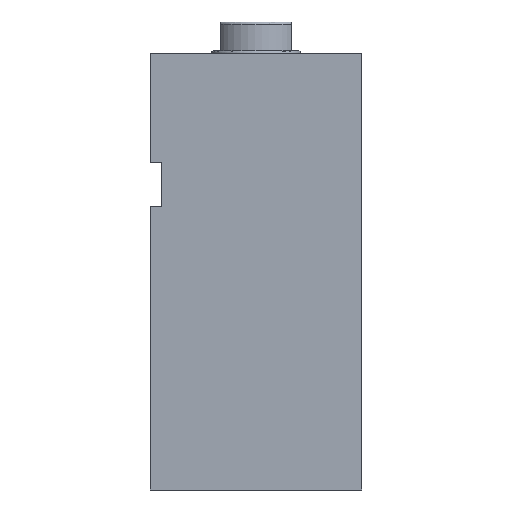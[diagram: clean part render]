
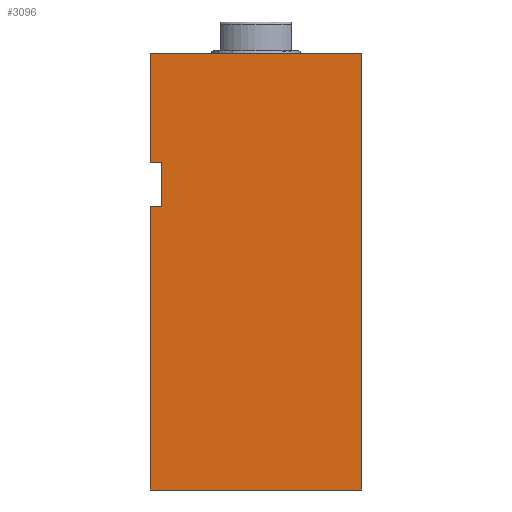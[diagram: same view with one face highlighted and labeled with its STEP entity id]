
A CAD part, front view. The second image highlights one B-rep face of the part: STEP entity #3096.
In plain terms, the highlighted planar face has unit normal (0, -1, 0).
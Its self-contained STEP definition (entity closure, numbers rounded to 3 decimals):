
#69 = CARTESIAN_POINT ( 'NONE',  ( 196., -62.5, 47.5 ) ) ;
#178 = VERTEX_POINT ( 'NONE', #686 ) ;
#185 = B_SPLINE_CURVE_WITH_KNOTS ( 'NONE', 1,
 ( #2417, #2891 ),
 .UNSPECIFIED., .F., .F.,
 ( 2, 2 ),
 ( 0., 0.648 ),
 .UNSPECIFIED. ) ;
#219 = CARTESIAN_POINT ( 'NONE',  ( 0., -62.5, -47.5 ) ) ;
#278 = CARTESIAN_POINT ( 'NONE',  ( 49., -62.5, -47.5 ) ) ;
#283 = LINE ( 'NONE', #4725, #1166 ) ;
#386 = CARTESIAN_POINT ( 'NONE',  ( 49., -62.5, -47.5 ) ) ;
#469 = B_SPLINE_CURVE_WITH_KNOTS ( 'NONE', 1,
 ( #3114, #3995 ),
 .UNSPECIFIED., .F., .F.,
 ( 2, 2 ),
 ( 0., 1. ),
 .UNSPECIFIED. ) ;
#605 = VECTOR ( 'NONE', #1725, 1000. ) ;
#686 = CARTESIAN_POINT ( 'NONE',  ( 196., -62.5, -47.5 ) ) ;
#792 = CARTESIAN_POINT ( 'NONE',  ( 196., -62.5, 47.5 ) ) ;
#804 = LINE ( 'NONE', #5360, #4521 ) ;
#827 = EDGE_LOOP ( 'NONE', ( #2909, #4030, #2223, #4424, #5145, #3312, #5308, #4698 ) ) ;
#959 = PLANE ( 'NONE',  #2066 ) ;
#980 = DIRECTION ( 'NONE',  ( 0., 1., 0. ) ) ;
#1140 = CARTESIAN_POINT ( 'NONE',  ( 196., -62.5, 47.5 ) ) ;
#1166 = VECTOR ( 'NONE', #3878, 1000. ) ;
#1209 = VERTEX_POINT ( 'NONE', #1378 ) ;
#1240 = DIRECTION ( 'NONE',  ( 0., 0., -1. ) ) ;
#1305 = CARTESIAN_POINT ( 'NONE',  ( 49., -62.5, -42.5 ) ) ;
#1378 = CARTESIAN_POINT ( 'NONE',  ( 0., -62.5, -47.5 ) ) ;
#1498 = FACE_OUTER_BOUND ( 'NONE', #827, .T. ) ;
#1534 = CARTESIAN_POINT ( 'NONE',  ( 49., -62.5, -47.5 ) ) ;
#1558 = EDGE_CURVE ( 'NONE', #2968, #1209, #2621, .T. ) ;
#1725 = DIRECTION ( 'NONE',  ( 1., 0., 0. ) ) ;
#1841 = EDGE_CURVE ( 'NONE', #1850, #178, #4651, .T. ) ;
#1850 = VERTEX_POINT ( 'NONE', #792 ) ;
#2066 = AXIS2_PLACEMENT_3D ( 'NONE', #69, #980, #3051 ) ;
#2161 = CARTESIAN_POINT ( 'NONE',  ( 49., -62.5, -42.5 ) ) ;
#2223 = ORIENTED_EDGE ( 'NONE', *, *, #2771, .T. ) ;
#2319 = DIRECTION ( 'NONE',  ( 0., 0., -1. ) ) ;
#2417 = CARTESIAN_POINT ( 'NONE',  ( 196., -62.5, -47.5 ) ) ;
#2506 = LINE ( 'NONE', #386, #3171 ) ;
#2554 = CARTESIAN_POINT ( 'NONE',  ( 69., -62.5, -42.5 ) ) ;
#2621 = B_SPLINE_CURVE_WITH_KNOTS ( 'NONE', 1,
 ( #1534, #219 ),
 .UNSPECIFIED., .F., .F.,
 ( 2, 2 ),
 ( 0.75, 1. ),
 .UNSPECIFIED. ) ;
#2771 = EDGE_CURVE ( 'NONE', #5486, #3165, #804, .T. ) ;
#2891 = CARTESIAN_POINT ( 'NONE',  ( 69., -62.5, -47.5 ) ) ;
#2909 = ORIENTED_EDGE ( 'NONE', *, *, #4258, .T. ) ;
#2968 = VERTEX_POINT ( 'NONE', #278 ) ;
#3051 = DIRECTION ( 'NONE',  ( 1., 0., 0. ) ) ;
#3096 = ADVANCED_FACE ( 'NONE', ( #1498 ), #959, .F. ) ;
#3114 = CARTESIAN_POINT ( 'NONE',  ( 196., -62.5, 47.5 ) ) ;
#3165 = VERTEX_POINT ( 'NONE', #4373 ) ;
#3171 = VECTOR ( 'NONE', #3392, 1000. ) ;
#3188 = EDGE_CURVE ( 'NONE', #4537, #5486, #4314, .T. ) ;
#3312 = ORIENTED_EDGE ( 'NONE', *, *, #5141, .T. ) ;
#3392 = DIRECTION ( 'NONE',  ( 0., 0., 1. ) ) ;
#3463 = EDGE_CURVE ( 'NONE', #178, #3165, #185, .T. ) ;
#3878 = DIRECTION ( 'NONE',  ( 0., 0., -1. ) ) ;
#3941 = VERTEX_POINT ( 'NONE', #5073 ) ;
#3982 = VECTOR ( 'NONE', #1240, 1000. ) ;
#3995 = CARTESIAN_POINT ( 'NONE',  ( 0., -62.5, 47.5 ) ) ;
#4030 = ORIENTED_EDGE ( 'NONE', *, *, #3188, .T. ) ;
#4258 = EDGE_CURVE ( 'NONE', #2968, #4537, #2506, .T. ) ;
#4314 = LINE ( 'NONE', #1305, #605 ) ;
#4373 = CARTESIAN_POINT ( 'NONE',  ( 69., -62.5, -47.5 ) ) ;
#4424 = ORIENTED_EDGE ( 'NONE', *, *, #3463, .F. ) ;
#4521 = VECTOR ( 'NONE', #2319, 1000. ) ;
#4537 = VERTEX_POINT ( 'NONE', #2161 ) ;
#4651 = LINE ( 'NONE', #1140, #3982 ) ;
#4698 = ORIENTED_EDGE ( 'NONE', *, *, #1558, .F. ) ;
#4725 = CARTESIAN_POINT ( 'NONE',  ( 0., -62.5, 47.5 ) ) ;
#5073 = CARTESIAN_POINT ( 'NONE',  ( 0., -62.5, 47.5 ) ) ;
#5093 = EDGE_CURVE ( 'NONE', #3941, #1209, #283, .T. ) ;
#5141 = EDGE_CURVE ( 'NONE', #1850, #3941, #469, .T. ) ;
#5145 = ORIENTED_EDGE ( 'NONE', *, *, #1841, .F. ) ;
#5308 = ORIENTED_EDGE ( 'NONE', *, *, #5093, .T. ) ;
#5360 = CARTESIAN_POINT ( 'NONE',  ( 69., -62.5, -42.5 ) ) ;
#5486 = VERTEX_POINT ( 'NONE', #2554 ) ;
